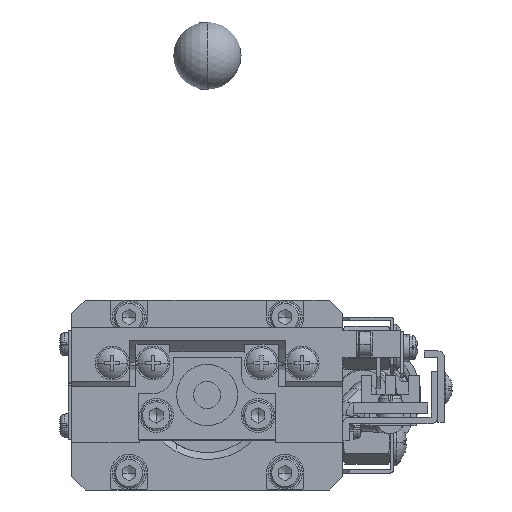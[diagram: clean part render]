
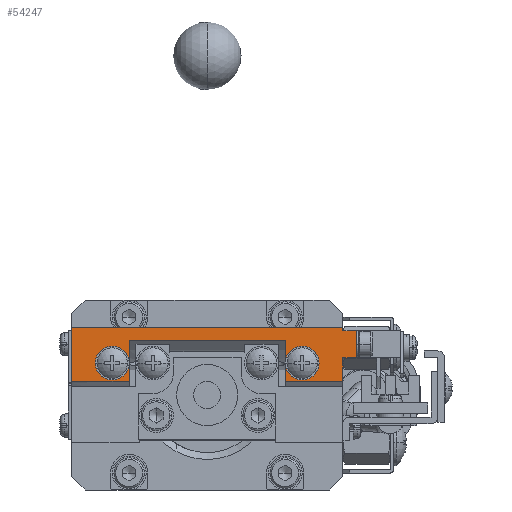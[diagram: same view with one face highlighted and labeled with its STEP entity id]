
A CAD part, left-side view. The second image highlights one B-rep face of the part: STEP entity #54247.
In plain terms, the highlighted planar face has unit normal (-1, 0, 0).
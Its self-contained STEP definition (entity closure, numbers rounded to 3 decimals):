
#87 = ORIENTED_EDGE ( 'NONE', *, *, #55528, .F. ) ;
#1955 = VECTOR ( 'NONE', #38236, 1000. ) ;
#1958 = DIRECTION ( 'NONE',  ( 0., 0., 1. ) ) ;
#2563 = ORIENTED_EDGE ( 'NONE', *, *, #41141, .F. ) ;
#2635 = VERTEX_POINT ( 'NONE', #74288 ) ;
#3403 = EDGE_CURVE ( 'NONE', #55053, #2635, #50323, .T. ) ;
#3474 = LINE ( 'NONE', #25210, #76324 ) ;
#4117 = CARTESIAN_POINT ( 'NONE',  ( -234.067, -79.12, -213.083 ) ) ;
#4207 = VERTEX_POINT ( 'NONE', #49691 ) ;
#4264 = CARTESIAN_POINT ( 'NONE',  ( -234.067, -115.62, -215.803 ) ) ;
#4657 = DIRECTION ( 'NONE',  ( -1., 0., 0. ) ) ;
#4729 = VERTEX_POINT ( 'NONE', #25869 ) ;
#4984 = LINE ( 'NONE', #4264, #68274 ) ;
#5915 = VERTEX_POINT ( 'NONE', #75372 ) ;
#6619 = LINE ( 'NONE', #18142, #48748 ) ;
#7096 = VECTOR ( 'NONE', #53594, 1000. ) ;
#7585 = DIRECTION ( 'NONE',  ( -1., 0., 0. ) ) ;
#8204 = CARTESIAN_POINT ( 'NONE',  ( -234.067, -84.12, -209.782 ) ) ;
#8816 = CARTESIAN_POINT ( 'NONE',  ( -234.067, -79.12, -207.803 ) ) ;
#9038 = EDGE_CURVE ( 'NONE', #51073, #19844, #10356, .T. ) ;
#9084 = DIRECTION ( 'NONE',  ( 0., 1., 0. ) ) ;
#9112 = ORIENTED_EDGE ( 'NONE', *, *, #49517, .F. ) ;
#9413 = CARTESIAN_POINT ( 'NONE',  ( -234.067, -109.62, -213.083 ) ) ;
#10356 = LINE ( 'NONE', #76615, #21814 ) ;
#10530 = CIRCLE ( 'NONE', #36546, 2.5 ) ;
#11728 = LINE ( 'NONE', #71293, #21278 ) ;
#12946 = ORIENTED_EDGE ( 'NONE', *, *, #3403, .T. ) ;
#12966 = DIRECTION ( 'NONE',  ( 0., 1., 0. ) ) ;
#13345 = CIRCLE ( 'NONE', #46893, 2.5 ) ;
#13603 = VECTOR ( 'NONE', #72891, 1000. ) ;
#15835 = DIRECTION ( 'NONE',  ( 0., 0., 1. ) ) ;
#15857 = CARTESIAN_POINT ( 'NONE',  ( -234.067, -107.12, -219.803 ) ) ;
#17599 = VERTEX_POINT ( 'NONE', #45202 ) ;
#17892 = VERTEX_POINT ( 'NONE', #72212 ) ;
#18142 = CARTESIAN_POINT ( 'NONE',  ( -234.067, -115.62, -215.803 ) ) ;
#18625 = EDGE_CURVE ( 'NONE', #4729, #2635, #11728, .T. ) ;
#18691 = FACE_OUTER_BOUND ( 'NONE', #26661, .T. ) ;
#18776 = LINE ( 'NONE', #24904, #30238 ) ;
#18899 = VECTOR ( 'NONE', #9084, 1000. ) ;
#19844 = VERTEX_POINT ( 'NONE', #38039 ) ;
#20197 = CARTESIAN_POINT ( 'NONE',  ( -234.067, -99.62, -209.782 ) ) ;
#20247 = EDGE_CURVE ( 'NONE', #67083, #17892, #6619, .T. ) ;
#20754 = CARTESIAN_POINT ( 'NONE',  ( -234.067, -84.12, -213.083 ) ) ;
#20759 = EDGE_CURVE ( 'NONE', #17599, #5915, #22777, .T. ) ;
#21086 = DIRECTION ( 'NONE',  ( 0., 1., 0. ) ) ;
#21150 = CARTESIAN_POINT ( 'NONE',  ( -234.067, -109.62, -213.083 ) ) ;
#21278 = VECTOR ( 'NONE', #15835, 1000. ) ;
#21356 = CARTESIAN_POINT ( 'NONE',  ( -234.067, -117.62, -212.303 ) ) ;
#21674 = DIRECTION ( 'NONE',  ( -1., 0., 0. ) ) ;
#21687 = ORIENTED_EDGE ( 'NONE', *, *, #33988, .T. ) ;
#21773 = CARTESIAN_POINT ( 'NONE',  ( -234.067, -81.62, -213.083 ) ) ;
#21814 = VECTOR ( 'NONE', #39939, 1000. ) ;
#22777 = LINE ( 'NONE', #37315, #38110 ) ;
#23836 = DIRECTION ( 'NONE',  ( 0., 0., 1. ) ) ;
#24455 = AXIS2_PLACEMENT_3D ( 'NONE', #77494, #4657, #34904 ) ;
#24807 = ORIENTED_EDGE ( 'NONE', *, *, #45762, .F. ) ;
#24904 = CARTESIAN_POINT ( 'NONE',  ( -234.067, -115.62, -215.803 ) ) ;
#25210 = CARTESIAN_POINT ( 'NONE',  ( -234.067, -84.12, -210.335 ) ) ;
#25869 = CARTESIAN_POINT ( 'NONE',  ( -234.067, -75.62, -215.803 ) ) ;
#26661 = EDGE_LOOP ( 'NONE', ( #27424, #2563, #66366, #46092, #87, #21687, #24807, #61767, #9112, #74314, #31143, #40985, #50833, #72921, #55337, #78048, #36026, #12946 ) ) ;
#26685 = CARTESIAN_POINT ( 'NONE',  ( -234.067, -117.62, -208.303 ) ) ;
#27424 = ORIENTED_EDGE ( 'NONE', *, *, #18625, .F. ) ;
#27503 = CARTESIAN_POINT ( 'NONE',  ( -234.067, -115.62, -207.803 ) ) ;
#27568 = DIRECTION ( 'NONE',  ( -1., 0., 0. ) ) ;
#27746 = VERTEX_POINT ( 'NONE', #20754 ) ;
#29286 = EDGE_CURVE ( 'NONE', #67083, #66576, #4984, .T. ) ;
#29781 = EDGE_CURVE ( 'NONE', #17892, #51073, #29901, .T. ) ;
#29901 = LINE ( 'NONE', #15857, #13603 ) ;
#29936 = CARTESIAN_POINT ( 'NONE',  ( -234.067, -115.62, -212.303 ) ) ;
#30238 = VECTOR ( 'NONE', #23836, 1000. ) ;
#30712 = EDGE_CURVE ( 'NONE', #17599, #44285, #44143, .T. ) ;
#31143 = ORIENTED_EDGE ( 'NONE', *, *, #29781, .F. ) ;
#32241 = CARTESIAN_POINT ( 'NONE',  ( -234.067, -107.12, -213.083 ) ) ;
#33566 = VECTOR ( 'NONE', #12966, 1000. ) ;
#33988 = EDGE_CURVE ( 'NONE', #27746, #37178, #3474, .T. ) ;
#34542 = DIRECTION ( 'NONE',  ( 0., 0., 1. ) ) ;
#34850 = VECTOR ( 'NONE', #38396, 1000. ) ;
#34904 = DIRECTION ( 'NONE',  ( 0., 1., 0. ) ) ;
#35676 = CIRCLE ( 'NONE', #24455, 2.5 ) ;
#36026 = ORIENTED_EDGE ( 'NONE', *, *, #58333, .T. ) ;
#36546 = AXIS2_PLACEMENT_3D ( 'NONE', #21773, #46463, #64452 ) ;
#37178 = VERTEX_POINT ( 'NONE', #8204 ) ;
#37262 = AXIS2_PLACEMENT_3D ( 'NONE', #21150, #27568, #65138 ) ;
#37315 = CARTESIAN_POINT ( 'NONE',  ( -234.067, -117.62, -208.303 ) ) ;
#38039 = CARTESIAN_POINT ( 'NONE',  ( -234.067, -107.12, -209.782 ) ) ;
#38110 = VECTOR ( 'NONE', #48888, 1000. ) ;
#38236 = DIRECTION ( 'NONE',  ( 0., 0., -1. ) ) ;
#38396 = DIRECTION ( 'NONE',  ( 0., 1., 0. ) ) ;
#39939 = DIRECTION ( 'NONE',  ( 0., 0., 1. ) ) ;
#39962 = LINE ( 'NONE', #21356, #18899 ) ;
#40985 = ORIENTED_EDGE ( 'NONE', *, *, #20247, .F. ) ;
#41141 = EDGE_CURVE ( 'NONE', #4207, #4729, #65205, .T. ) ;
#41494 = CARTESIAN_POINT ( 'NONE',  ( -234.067, -84.12, -219.803 ) ) ;
#43232 = CARTESIAN_POINT ( 'NONE',  ( -234.067, -79.12, -215.803 ) ) ;
#44143 = LINE ( 'NONE', #26685, #1955 ) ;
#44285 = VERTEX_POINT ( 'NONE', #50947 ) ;
#45202 = CARTESIAN_POINT ( 'NONE',  ( -234.067, -117.62, -208.303 ) ) ;
#45762 = EDGE_CURVE ( 'NONE', #19844, #37178, #77960, .T. ) ;
#46092 = ORIENTED_EDGE ( 'NONE', *, *, #60153, .F. ) ;
#46463 = DIRECTION ( 'NONE',  ( -1., 0., 0. ) ) ;
#46466 = VECTOR ( 'NONE', #21086, 1000. ) ;
#46893 = AXIS2_PLACEMENT_3D ( 'NONE', #9413, #21674, #51201 ) ;
#48748 = VECTOR ( 'NONE', #67199, 1000. ) ;
#48888 = DIRECTION ( 'NONE',  ( 0., 1., 0. ) ) ;
#49517 = EDGE_CURVE ( 'NONE', #71679, #51073, #65644, .T. ) ;
#49691 = CARTESIAN_POINT ( 'NONE',  ( -234.067, -84.12, -215.803 ) ) ;
#50323 = LINE ( 'NONE', #8816, #46466 ) ;
#50833 = ORIENTED_EDGE ( 'NONE', *, *, #29286, .T. ) ;
#50947 = CARTESIAN_POINT ( 'NONE',  ( -234.067, -117.62, -212.303 ) ) ;
#51073 = VERTEX_POINT ( 'NONE', #32241 ) ;
#51201 = DIRECTION ( 'NONE',  ( 0., 1., 0. ) ) ;
#53594 = DIRECTION ( 'NONE',  ( 0., 0., 1. ) ) ;
#54247 = ADVANCED_FACE ( 'NONE', ( #18691 ), #55579, .T. ) ;
#55010 = DIRECTION ( 'NONE',  ( 0., 0., 1. ) ) ;
#55053 = VERTEX_POINT ( 'NONE', #27503 ) ;
#55337 = ORIENTED_EDGE ( 'NONE', *, *, #30712, .F. ) ;
#55510 = VERTEX_POINT ( 'NONE', #4117 ) ;
#55528 = EDGE_CURVE ( 'NONE', #27746, #55510, #10530, .T. ) ;
#55579 = PLANE ( 'NONE',  #57627 ) ;
#55845 = CARTESIAN_POINT ( 'NONE',  ( -234.067, -79.12, -215.803 ) ) ;
#56001 = EDGE_CURVE ( 'NONE', #51073, #71679, #13345, .T. ) ;
#57627 = AXIS2_PLACEMENT_3D ( 'NONE', #55845, #7585, #1958 ) ;
#58333 = EDGE_CURVE ( 'NONE', #5915, #55053, #18776, .T. ) ;
#60153 = EDGE_CURVE ( 'NONE', #55510, #27746, #35676, .T. ) ;
#61767 = ORIENTED_EDGE ( 'NONE', *, *, #9038, .F. ) ;
#64452 = DIRECTION ( 'NONE',  ( 0., 1., 0. ) ) ;
#65138 = DIRECTION ( 'NONE',  ( 0., 1., 0. ) ) ;
#65205 = LINE ( 'NONE', #43232, #33566 ) ;
#65353 = EDGE_CURVE ( 'NONE', #44285, #66576, #39962, .T. ) ;
#65644 = CIRCLE ( 'NONE', #37262, 2.5 ) ;
#66366 = ORIENTED_EDGE ( 'NONE', *, *, #70716, .T. ) ;
#66576 = VERTEX_POINT ( 'NONE', #29936 ) ;
#67083 = VERTEX_POINT ( 'NONE', #71840 ) ;
#67199 = DIRECTION ( 'NONE',  ( 0., 1., 0. ) ) ;
#68274 = VECTOR ( 'NONE', #34542, 1000. ) ;
#70352 = LINE ( 'NONE', #41494, #7096 ) ;
#70716 = EDGE_CURVE ( 'NONE', #4207, #27746, #70352, .T. ) ;
#71293 = CARTESIAN_POINT ( 'NONE',  ( -234.067, -75.62, -215.803 ) ) ;
#71679 = VERTEX_POINT ( 'NONE', #75658 ) ;
#71840 = CARTESIAN_POINT ( 'NONE',  ( -234.067, -115.62, -215.803 ) ) ;
#72212 = CARTESIAN_POINT ( 'NONE',  ( -234.067, -107.12, -215.803 ) ) ;
#72891 = DIRECTION ( 'NONE',  ( 0., 0., 1. ) ) ;
#72921 = ORIENTED_EDGE ( 'NONE', *, *, #65353, .F. ) ;
#74288 = CARTESIAN_POINT ( 'NONE',  ( -234.067, -75.62, -207.803 ) ) ;
#74314 = ORIENTED_EDGE ( 'NONE', *, *, #56001, .F. ) ;
#75372 = CARTESIAN_POINT ( 'NONE',  ( -234.067, -115.62, -208.303 ) ) ;
#75658 = CARTESIAN_POINT ( 'NONE',  ( -234.067, -112.12, -213.083 ) ) ;
#76324 = VECTOR ( 'NONE', #55010, 1000. ) ;
#76615 = CARTESIAN_POINT ( 'NONE',  ( -234.067, -107.12, -210.335 ) ) ;
#77494 = CARTESIAN_POINT ( 'NONE',  ( -234.067, -81.62, -213.083 ) ) ;
#77960 = LINE ( 'NONE', #20197, #34850 ) ;
#78048 = ORIENTED_EDGE ( 'NONE', *, *, #20759, .T. ) ;
